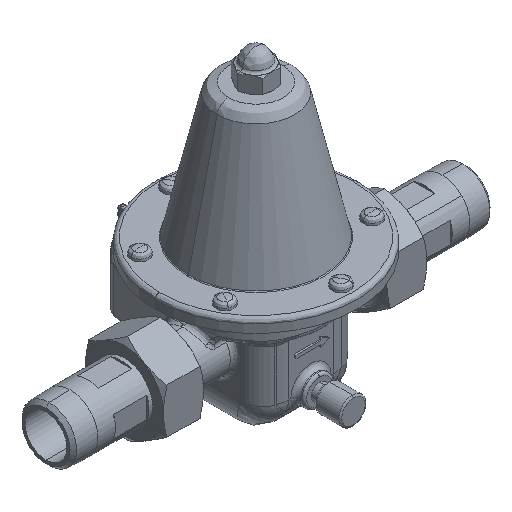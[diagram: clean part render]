
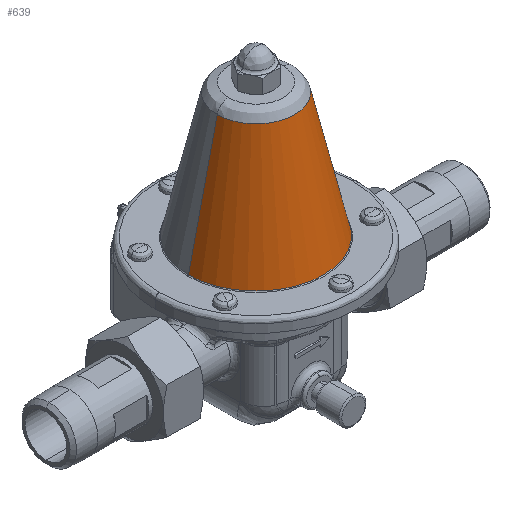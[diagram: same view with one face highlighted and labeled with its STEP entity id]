
A CAD part, isometric view. The second image highlights one B-rep face of the part: STEP entity #639.
In plain terms, the highlighted free-form (B-spline) face has degree [2, 1] with [5, 2] control points.
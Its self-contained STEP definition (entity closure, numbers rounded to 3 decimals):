
#639=ADVANCED_FACE('',(#3841),#3840,.T.);
#3840=( BOUNDED_SURFACE() B_SPLINE_SURFACE( 2,1,((#9465,#9466),(#9467,#9468),(#9469,#9470),(#9471,#9472),(#9473,#9474)), .UNSPECIFIED.,.F.,.F.,.F.) B_SPLINE_SURFACE_WITH_KNOTS((3,2,3),(2,2),(0.,0.5,1.),(0.,1.), .UNSPECIFIED. ) GEOMETRIC_REPRESENTATION_ITEM() RATIONAL_B_SPLINE_SURFACE(((1.,1.),(0.707,0.707),(1.,1.),(0.707,0.707),(1.,1.))) REPRESENTATION_ITEM('') SURFACE() );
#3841=FACE_OUTER_BOUND('',#9475,.T.);
#9465=CARTESIAN_POINT('',(23.259,0.,78.575));
#9466=CARTESIAN_POINT('',(40.501,0.,3.888));
#9467=CARTESIAN_POINT('',(23.259,-23.259,78.575));
#9468=CARTESIAN_POINT('',(40.501,-40.501,3.888));
#9469=CARTESIAN_POINT('',(0.,-23.259,78.575));
#9470=CARTESIAN_POINT('',(0.,-40.501,3.888));
#9471=CARTESIAN_POINT('',(-23.259,-23.259,78.575));
#9472=CARTESIAN_POINT('',(-40.501,-40.501,3.888));
#9473=CARTESIAN_POINT('',(-23.259,0.,78.575));
#9474=CARTESIAN_POINT('',(-40.501,0.,3.888));
#9475=EDGE_LOOP('',(#11644,#11645,#11646,#11647));
#11644=ORIENTED_EDGE('',*,*,#12791,.T.);
#11645=ORIENTED_EDGE('',*,*,#12807,.T.);
#11646=ORIENTED_EDGE('',*,*,#12804,.F.);
#11647=ORIENTED_EDGE('',*,*,#12808,.F.);
#12791=EDGE_CURVE('',#17826,#17827,#17828,.T.);
#12804=EDGE_CURVE('',#17902,#17909,#17910,.T.);
#12807=EDGE_CURVE('',#17827,#17909,#17928,.T.);
#12808=EDGE_CURVE('',#17826,#17902,#17934,.T.);
#17826=VERTEX_POINT('',#23372);
#17827=VERTEX_POINT('',#23373);
#17828=CIRCLE('',#23377,23.259);
#17902=VERTEX_POINT('',#23416);
#17909=VERTEX_POINT('',#23420);
#17910=CIRCLE('',#23424,40.501);
#17928=(BOUNDED_CURVE() B_SPLINE_CURVE(1,(#23432,#23433),.UNSPECIFIED.,.F.,.F.) B_SPLINE_CURVE_WITH_KNOTS((2,2),(0.,1.),.UNSPECIFIED.) CURVE() GEOMETRIC_REPRESENTATION_ITEM() RATIONAL_B_SPLINE_CURVE((1.,1.)) REPRESENTATION_ITEM('') );
#17934=(BOUNDED_CURVE() B_SPLINE_CURVE(1,(#23434,#23435),.UNSPECIFIED.,.F.,.F.) B_SPLINE_CURVE_WITH_KNOTS((2,2),(0.,1.),.UNSPECIFIED.) CURVE() GEOMETRIC_REPRESENTATION_ITEM() RATIONAL_B_SPLINE_CURVE((0.75,0.75)) REPRESENTATION_ITEM('') );
#23372=CARTESIAN_POINT('',(23.259,0.,78.575));
#23373=CARTESIAN_POINT('',(-23.259,0.,78.575));
#23374=CARTESIAN_POINT('',(0.,0.,78.575));
#23375=DIRECTION('',(0.,0.,-1.));
#23376=DIRECTION('',(-1.,0.,0.));
#23377=AXIS2_PLACEMENT_3D('',#23374,#23375,#23376);
#23416=CARTESIAN_POINT('',(40.501,0.,3.888));
#23420=CARTESIAN_POINT('',(-40.501,0.,3.888));
#23421=CARTESIAN_POINT('',(0.,0.,3.888));
#23422=DIRECTION('',(0.,0.,-1.));
#23423=DIRECTION('',(-1.,0.,0.));
#23424=AXIS2_PLACEMENT_3D('',#23421,#23422,#23423);
#23432=CARTESIAN_POINT('',(-23.259,0.,78.575));
#23433=CARTESIAN_POINT('',(-40.501,0.,3.888));
#23434=CARTESIAN_POINT('',(23.259,0.,78.575));
#23435=CARTESIAN_POINT('',(40.501,0.,3.888));
